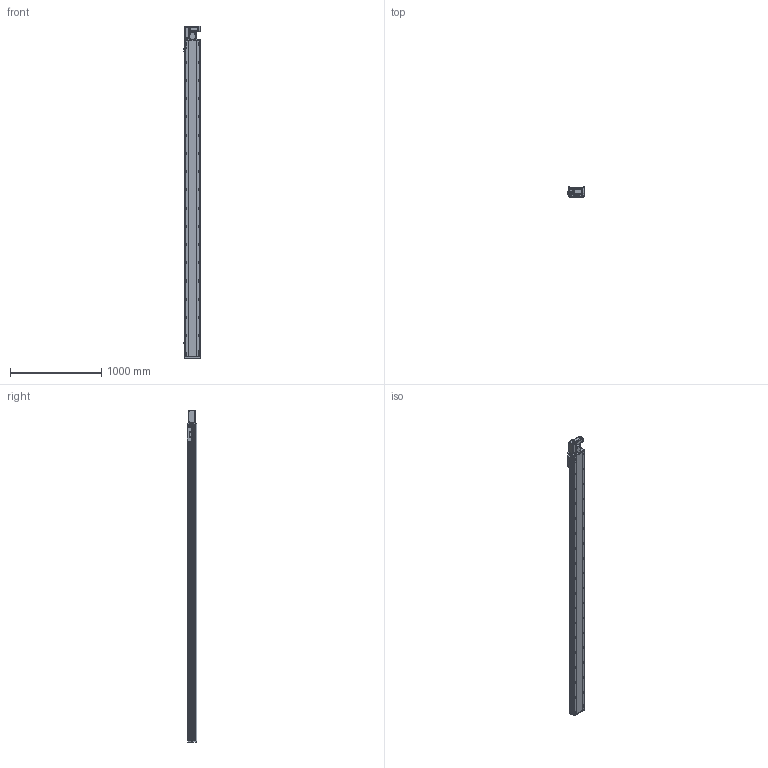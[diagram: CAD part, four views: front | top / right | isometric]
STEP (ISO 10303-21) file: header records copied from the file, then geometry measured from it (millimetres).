
FILE_DESCRIPTION (( 'STEP AP214' ), '1' );
FILE_NAME ('RTB17S-XX-3200-L-M40-C4.STEP', '2025-12-11T06:06:22', ( '' ), ( '' ), 'SwSTEP 2.0', 'SolidWorks 2018', '' );
FILE_SCHEMA (( 'AUTOMOTIVE_DESIGN' ));
Length unit declared in the file: millimetre
Products named in the file (14): RTB14-L-017P^RTB17S-L-々湍釱蚾饜-400W_RTB17S-XX-XX-L-M40-C4; RTB17S-L-々湍釱蚾饜-400W^RTB17S-XX-XX-L-M40-C4; RMP17S-L-014-T20--々湍釱^RTB17S-L-々湍釱蚾饜-400W_RTB17S-XX-XX-L-M40-C4; RTH13-BL-012覜茼え俋离^RTB17S-XX-XX-L-M40-C4; 400W侜督萇儂^RTB17S-XX-XX-L-M40-C4; RTB14-L-018P^RTB17S-L-々湍釱蚾饜-400W_RTB17S-XX-XX-L-M40-C4; RTB17S-L-004佪裝蹟譫蟀諉釱^RTB17S-XX-XX-L-M40-C4; RTB14-L-005P--轴承塑胶压盖^RTB17S-L-皮带座装配-400W_RTB17S-XX-XX-L-M40-C4; RTB17S-L-001耜醱啣^RTB17S-XX-XX-L-M40-C4; RTB14-L-008-M20--萇儂啣^RTB17S-L-々湍釱蚾饜-400W_RTB17S-XX-XX-L-M40-C4; OMRON EE-SX672 传感器^RTB17S-XX-XX-L-M40-C4; RTB17S-L-007奻裔^RTB17S-XX-XX-L-M40-C4; RTB17S-XX-3200-L-M40-C4; RTB17-R-011菁釱^RTB17S-XX-XX-L-M40-C4
Assembly tree (16 placements, depth 3):
  RTB17S-XX-3200-L-M40-C4
    RTB17-R-011菁釱^RTB17S-XX-XX-L-M40-C4
    RTB17S-L-007奻裔^RTB17S-XX-XX-L-M40-C4
    OMRON EE-SX672 传感器^RTB17S-XX-XX-L-M40-C4  x3
    RTB17S-L-001耜醱啣^RTB17S-XX-XX-L-M40-C4
    400W侜督萇儂^RTB17S-XX-XX-L-M40-C4
    RTB17S-L-004佪裝蹟譫蟀諉釱^RTB17S-XX-XX-L-M40-C4
    RTH13-BL-012覜茼え俋离^RTB17S-XX-XX-L-M40-C4
    RTB17S-L-々湍釱蚾饜-400W^RTB17S-XX-XX-L-M40-C4
      RMP17S-L-014-T20--々湍釱^RTB17S-L-々湍釱蚾饜-400W_RTB17S-XX-XX-L-M40-C4
      RTB14-L-005P--轴承塑胶压盖^RTB17S-L-皮带座装配-400W_RTB17S-XX-XX-L-M40-C4
      RTB14-L-008-M20--萇儂啣^RTB17S-L-々湍釱蚾饜-400W_RTB17S-XX-XX-L-M40-C4
      RTB14-L-017P^RTB17S-L-々湍釱蚾饜-400W_RTB17S-XX-XX-L-M40-C4  x2
      RTB14-L-018P^RTB17S-L-々湍釱蚾饜-400W_RTB17S-XX-XX-L-M40-C4
Bounding box: 186 x 108 x 3641 mm (x, y, z)
Volume: 30317776.9 mm3; surface area: 3453606.6 mm2
Topology: 15 solids, 15 shells, 2381 faces, 6681 edges, 4365 vertices
Faces by surface type: plane 1090, cylinder 843, bspline 301, cone 139, torus 8
Entity records: 71081 total; most frequent: CARTESIAN_POINT 20286, ORIENTED_EDGE 10206, DIRECTION 9386, EDGE_CURVE 5103, VERTEX_POINT 3353, AXIS2_PLACEMENT_3D 3283, LINE 2820, VECTOR 2820
